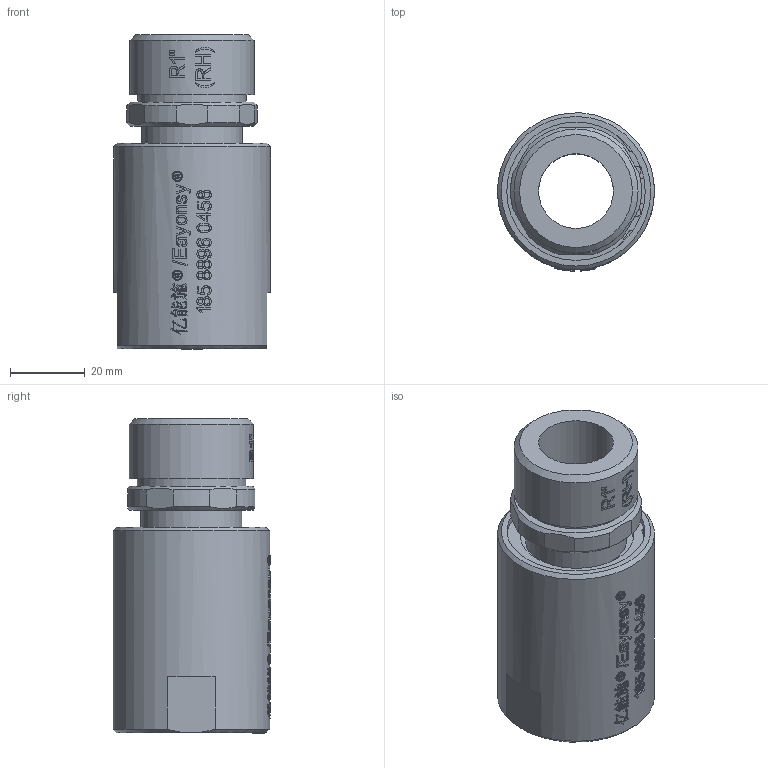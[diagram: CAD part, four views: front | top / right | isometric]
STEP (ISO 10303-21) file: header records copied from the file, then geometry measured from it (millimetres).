
FILE_DESCRIPTION(/* description */ (''),/* implementation_level */ '2;1');
FILE_NAME(/* name */ 'YYK0108(RH)-3D模型.stp',/* time_stamp */ '2025-07-09T10:23:30+08:00',/* author */ (''),/* organization */ (''),/* preprocessor_version */ 'ST-DEVELOPER v16.7',/* originating_system */ 'SIEMENS PLM Software NX 12.0',/* authorisation */ '');
FILE_SCHEMA (('AUTOMOTIVE_DESIGN { 1 0 10303 214 3 1 1 1 }'));
Products named in the file (1): Admi9AC4218F3zli
Bounding box: 42 x 42.24 x 84.1 mm (x, y, z)
Volume: 65101.6 mm3; surface area: 20146.2 mm2
Topology: 1 solids, 1 shells, 1020 faces, 2826 edges, 1884 vertices
Faces by surface type: extrusion 605, plane 318, cylinder 50, bspline 41, cone 6
Full cylindrical faces by diameter (mm): 2.364 x2, 20 x1, 27 x1, 29 x1, 30.3 x1, 33.2 x1, 37 x1, 39 x1, 42 x1
Entity records: 42556 total; most frequent: CARTESIAN_POINT 20817, ORIENTED_EDGE 5608, B_SPLINE_CURVE_WITH_KNOTS 2824, EDGE_CURVE 2804, DIRECTION 2177, VERTEX_POINT 1876, EDGE_LOOP 1112, ADVANCED_FACE 1020
